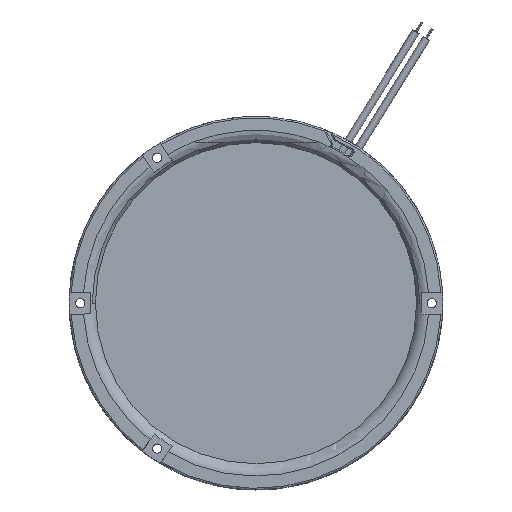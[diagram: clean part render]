
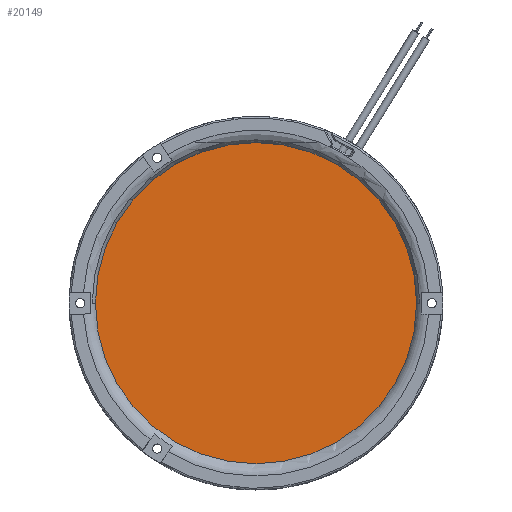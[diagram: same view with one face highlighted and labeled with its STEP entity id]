
A CAD part, top view. The second image highlights one B-rep face of the part: STEP entity #20149.
In plain terms, the highlighted planar face has unit normal (0, 0, 1).
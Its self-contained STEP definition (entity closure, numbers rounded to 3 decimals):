
#6905=CARTESIAN_POINT('',(0.,0.,0.));
#6906=DIRECTION('',(0.,0.,1.));
#6907=DIRECTION('',(1.,0.,0.));
#6908=AXIS2_PLACEMENT_3D('',#6905,#6906,#6907);
#6910=CARTESIAN_POINT('',(0.,0.,0.));
#6911=DIRECTION('',(0.,0.,1.));
#6912=DIRECTION('',(-1.,0.,0.));
#6913=AXIS2_PLACEMENT_3D('',#6910,#6911,#6912);
#11790=CARTESIAN_POINT('',(73.978,0.,0.));
#11791=CARTESIAN_POINT('',(-73.978,0.,0.));
#11792=VERTEX_POINT('',#11790);
#11793=VERTEX_POINT('',#11791);
#20140=CARTESIAN_POINT('',(0.,0.,0.));
#20141=DIRECTION('',(0.,0.,1.));
#20142=DIRECTION('',(1.,0.,0.));
#20143=AXIS2_PLACEMENT_3D('',#20140,#20141,#20142);
#20144=PLANE('',#20143);
#20145=ORIENTED_EDGE('',*,*,#20134,.F.);
#20146=ORIENTED_EDGE('',*,*,#15537,.F.);
#20147=EDGE_LOOP('',(#20145,#20146));
#20148=FACE_OUTER_BOUND('',#20147,.F.);
#20149=ADVANCED_FACE('',(#20148),#20144,.T.);
#6909=CIRCLE('',#6908,73.978);
#6914=CIRCLE('',#6913,73.978);
#15537=EDGE_CURVE('',#11793,#11792,#6914,.T.);
#20134=EDGE_CURVE('',#11792,#11793,#6909,.T.);
